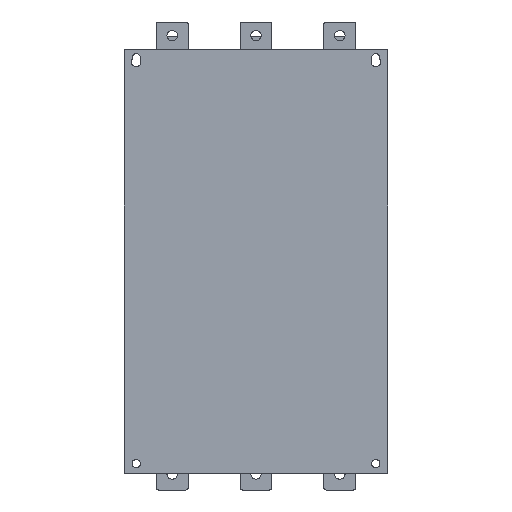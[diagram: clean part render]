
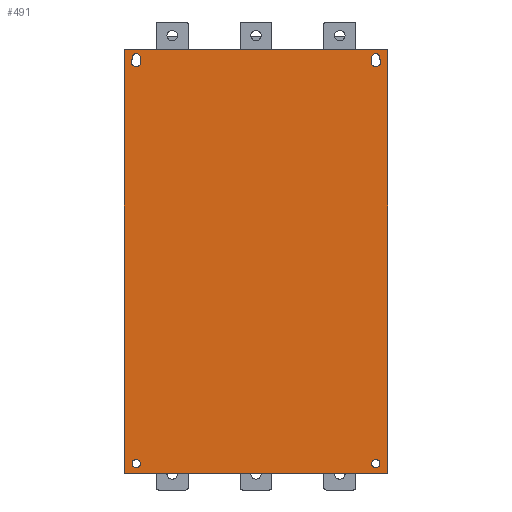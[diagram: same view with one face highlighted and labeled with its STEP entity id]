
A CAD part, left-side view. The second image highlights one B-rep face of the part: STEP entity #491.
In plain terms, the highlighted planar face has unit normal (-1, 0, 0).
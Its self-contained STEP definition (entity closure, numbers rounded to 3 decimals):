
#491=ADVANCED_FACE('',(#1928,#1930,#1932,#1934,#1936),#1938,.F.);
#1928=FACE_BOUND('',#1929,.T.);
#1929=EDGE_LOOP('',(#5572,#5573,#5574,#5575,#5576,#5577,#5578,#5579));
#1930=FACE_BOUND('',#1931,.T.);
#1931=EDGE_LOOP('',(#5580));
#1932=FACE_BOUND('',#1933,.T.);
#1933=EDGE_LOOP('',(#5581));
#1934=FACE_BOUND('',#1935,.T.);
#1935=EDGE_LOOP('',(#5582,#5583));
#1936=FACE_BOUND('',#1937,.T.);
#1937=EDGE_LOOP('',(#5584,#5585));
#1938=PLANE('',#1939);
#1939=AXIS2_PLACEMENT_3D('',#1940,#1941,#1942);
#1940=CARTESIAN_POINT('',(0.,0.,0.));
#1941=DIRECTION('',(1.,0.,0.));
#1942=DIRECTION('',(0.,1.,0.));
#5572=ORIENTED_EDGE('',*,*,#8023,.F.);
#5573=ORIENTED_EDGE('',*,*,#8024,.F.);
#5574=ORIENTED_EDGE('',*,*,#8025,.F.);
#5575=ORIENTED_EDGE('',*,*,#7932,.F.);
#5576=ORIENTED_EDGE('',*,*,#8021,.F.);
#5577=ORIENTED_EDGE('',*,*,#8026,.F.);
#5578=ORIENTED_EDGE('',*,*,#8027,.F.);
#5579=ORIENTED_EDGE('',*,*,#7966,.F.);
#5580=ORIENTED_EDGE('',*,*,#8028,.T.);
#5581=ORIENTED_EDGE('',*,*,#8029,.T.);
#5582=ORIENTED_EDGE('',*,*,#8030,.T.);
#5583=ORIENTED_EDGE('',*,*,#8031,.T.);
#5584=ORIENTED_EDGE('',*,*,#8032,.T.);
#5585=ORIENTED_EDGE('',*,*,#8033,.T.);
#7932=EDGE_CURVE('',#9211,#9213,#9214,.T.);
#7966=EDGE_CURVE('',#9275,#9278,#9279,.T.);
#8021=EDGE_CURVE('',#9371,#9211,#9372,.T.);
#8023=EDGE_CURVE('',#9374,#9275,#9375,.F.);
#8024=EDGE_CURVE('',#9376,#9374,#9377,.T.);
#8025=EDGE_CURVE('',#9213,#9376,#9378,.T.);
#8026=EDGE_CURVE('',#9379,#9371,#9380,.T.);
#8027=EDGE_CURVE('',#9278,#9379,#9381,.T.);
#8028=EDGE_CURVE('',#9382,#9382,#9383,.T.);
#8029=EDGE_CURVE('',#9384,#9384,#9385,.T.);
#8030=EDGE_CURVE('',#9386,#9387,#9388,.T.);
#8031=EDGE_CURVE('',#9387,#9386,#9389,.T.);
#8032=EDGE_CURVE('',#9390,#9391,#9392,.T.);
#8033=EDGE_CURVE('',#9391,#9390,#9393,.T.);
#9211=VERTEX_POINT('',#11379);
#9213=VERTEX_POINT('',#11383);
#9214=LINE('',#11384,#11385);
#9275=VERTEX_POINT('',#11513);
#9278=VERTEX_POINT('',#11518);
#9279=LINE('',#11519,#11520);
#9371=VERTEX_POINT('',#11745);
#9372=CIRCLE('',#11746,1.);
#9374=VERTEX_POINT('',#11753);
#9375=CIRCLE('',#11754,1.);
#9376=VERTEX_POINT('',#11758);
#9377=LINE('',#11759,#11760);
#9378=CIRCLE('',#11762,1.);
#9379=VERTEX_POINT('',#11766);
#9380=LINE('',#11767,#11768);
#9381=CIRCLE('',#11770,1.);
#9382=VERTEX_POINT('',#11774);
#9383=CIRCLE('',#11775,5.25);
#9384=VERTEX_POINT('',#11779);
#9385=CIRCLE('',#11780,5.25);
#9386=VERTEX_POINT('',#11784);
#9387=VERTEX_POINT('',#11785);
#9388=CIRCLE('',#11786,5.25);
#9389=CIRCLE('',#11790,6.);
#9390=VERTEX_POINT('',#11794);
#9391=VERTEX_POINT('',#11795);
#9392=CIRCLE('',#11796,5.25);
#9393=CIRCLE('',#11800,6.);
#11379=CARTESIAN_POINT('',(0.,165.,-261.));
#11383=CARTESIAN_POINT('',(0.,165.,267.));
#11384=CARTESIAN_POINT('',(0.,165.,-261.));
#11385=VECTOR('',#11386,1.);
#11386=DIRECTION('',(0.,0.,1.));
#11513=CARTESIAN_POINT('',(0.,-165.,267.));
#11518=CARTESIAN_POINT('',(0.,-165.,-261.));
#11519=CARTESIAN_POINT('',(0.,-165.,267.));
#11520=VECTOR('',#11521,1.);
#11521=DIRECTION('',(0.,0.,-1.));
#11745=CARTESIAN_POINT('',(0.,164.,-262.));
#11746=AXIS2_PLACEMENT_3D('',#11747,#11748,#11749);
#11747=CARTESIAN_POINT('',(0.,164.,-261.));
#11748=DIRECTION('',(1.,0.,0.));
#11749=DIRECTION('',(0.,0.,-1.));
#11753=CARTESIAN_POINT('',(0.,-164.,268.));
#11754=AXIS2_PLACEMENT_3D('',#11755,#11756,#11757);
#11755=CARTESIAN_POINT('',(0.,-164.,267.));
#11756=DIRECTION('',(-1.,0.,0.));
#11757=DIRECTION('',(0.,-1.,0.));
#11758=CARTESIAN_POINT('',(0.,164.,268.));
#11759=CARTESIAN_POINT('',(0.,164.,268.));
#11760=VECTOR('',#11761,1.);
#11761=DIRECTION('',(0.,-1.,0.));
#11762=AXIS2_PLACEMENT_3D('',#11763,#11764,#11765);
#11763=CARTESIAN_POINT('',(0.,164.,267.));
#11764=DIRECTION('',(1.,0.,0.));
#11765=DIRECTION('',(0.,1.,0.));
#11766=CARTESIAN_POINT('',(0.,-164.,-262.));
#11767=CARTESIAN_POINT('',(0.,-164.,-262.));
#11768=VECTOR('',#11769,1.);
#11769=DIRECTION('',(0.,1.,0.));
#11770=AXIS2_PLACEMENT_3D('',#11771,#11772,#11773);
#11771=CARTESIAN_POINT('',(0.,-164.,-261.));
#11772=DIRECTION('',(1.,0.,0.));
#11773=DIRECTION('',(0.,-1.,0.));
#11774=CARTESIAN_POINT('',(0.,150.,-244.75));
#11775=AXIS2_PLACEMENT_3D('',#11776,#11777,#11778);
#11776=CARTESIAN_POINT('',(0.,150.,-250.));
#11777=DIRECTION('',(1.,0.,0.));
#11778=DIRECTION('',(0.,0.,1.));
#11779=CARTESIAN_POINT('',(0.,-150.,-244.75));
#11780=AXIS2_PLACEMENT_3D('',#11781,#11782,#11783);
#11781=CARTESIAN_POINT('',(0.,-150.,-250.));
#11782=DIRECTION('',(1.,0.,0.));
#11783=DIRECTION('',(0.,0.,1.));
#11784=CARTESIAN_POINT('',(0.,154.982,256.344));
#11785=CARTESIAN_POINT('',(0.,145.018,256.344));
#11786=AXIS2_PLACEMENT_3D('',#11787,#11788,#11789);
#11787=CARTESIAN_POINT('',(0.,150.,258.));
#11788=DIRECTION('',(1.,0.,0.));
#11789=DIRECTION('',(0.,0.949,-0.315));
#11790=AXIS2_PLACEMENT_3D('',#11791,#11792,#11793);
#11791=CARTESIAN_POINT('',(0.,150.,253.));
#11792=DIRECTION('',(1.,0.,0.));
#11793=DIRECTION('',(0.,-0.83,0.557));
#11794=CARTESIAN_POINT('',(0.,-145.018,256.344));
#11795=CARTESIAN_POINT('',(0.,-154.982,256.344));
#11796=AXIS2_PLACEMENT_3D('',#11797,#11798,#11799);
#11797=CARTESIAN_POINT('',(0.,-150.,258.));
#11798=DIRECTION('',(1.,0.,0.));
#11799=DIRECTION('',(0.,0.949,-0.315));
#11800=AXIS2_PLACEMENT_3D('',#11801,#11802,#11803);
#11801=CARTESIAN_POINT('',(0.,-150.,253.));
#11802=DIRECTION('',(1.,0.,0.));
#11803=DIRECTION('',(0.,-0.83,0.557));
